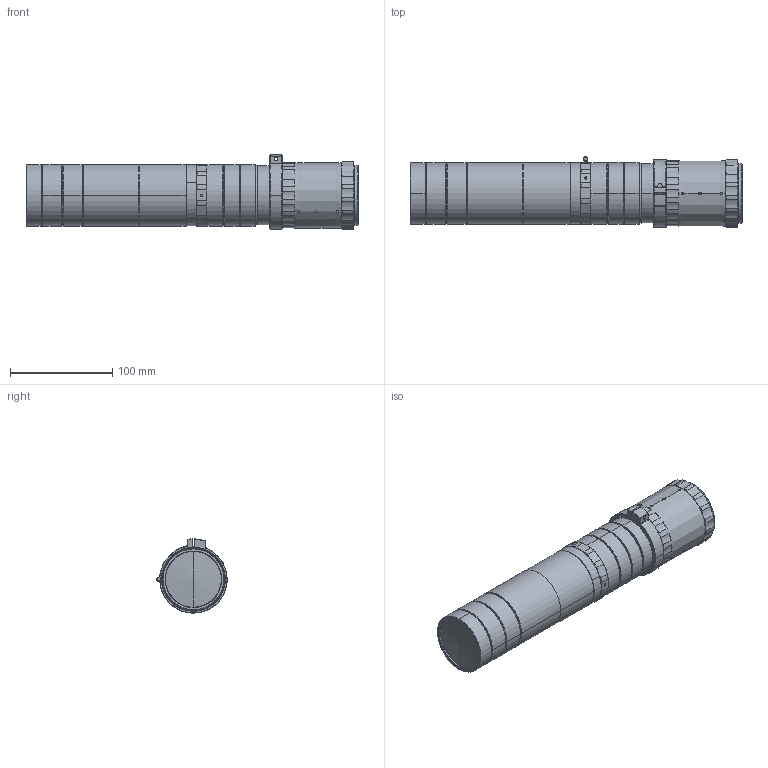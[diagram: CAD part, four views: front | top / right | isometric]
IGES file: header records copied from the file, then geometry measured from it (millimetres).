
Start section: SolidWorks IGES file using analytic representation for surfaces
Bounding box: 323.95 x 68.76 x 72.49 mm (x, y, z)
Surface area: 87877.6 mm2 (no closed solid volume)
Topology: 0 solids, 0 shells, 510 faces, 8572 edges, 8568 vertices
Faces by surface type: revolution 400, bspline 110
